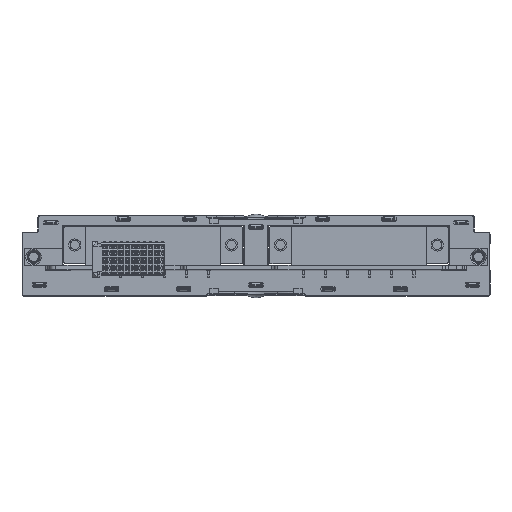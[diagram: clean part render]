
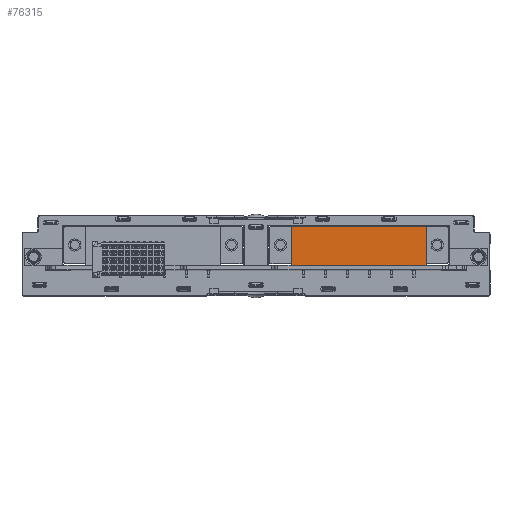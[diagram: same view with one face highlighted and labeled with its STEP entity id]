
A CAD part, top view. The second image highlights one B-rep face of the part: STEP entity #76315.
In plain terms, the highlighted planar face has unit normal (0, 0, 1).
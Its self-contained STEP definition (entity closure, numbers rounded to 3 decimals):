
#4297=FACE_OUTER_BOUND('',#8546,.T.);
#8546=EDGE_LOOP('',(#55027,#55028,#55029,#55030));
#13930=LINE('',#121234,#21775);
#14058=LINE('',#121539,#21903);
#14059=LINE('',#121541,#21904);
#14060=LINE('',#121542,#21905);
#21775=VECTOR('',#94083,1.);
#21903=VECTOR('',#94375,1.);
#21904=VECTOR('',#94376,1.);
#21905=VECTOR('',#94377,10.);
#31660=VERTEX_POINT('',#121222);
#31665=VERTEX_POINT('',#121232);
#31760=VERTEX_POINT('',#121538);
#31761=VERTEX_POINT('',#121540);
#40055=EDGE_CURVE('',#31660,#31665,#13930,.T.);
#40203=EDGE_CURVE('',#31665,#31760,#14058,.T.);
#40204=EDGE_CURVE('',#31760,#31761,#14059,.T.);
#40205=EDGE_CURVE('',#31660,#31761,#14060,.T.);
#55027=ORIENTED_EDGE('',*,*,#40203,.T.);
#55028=ORIENTED_EDGE('',*,*,#40204,.T.);
#55029=ORIENTED_EDGE('',*,*,#40205,.F.);
#55030=ORIENTED_EDGE('',*,*,#40055,.T.);
#68362=PLANE('',#81910);
#76315=ADVANCED_FACE('',(#4297),#68362,.T.);
#81910=AXIS2_PLACEMENT_3D('',#121537,#94373,#94374);
#94083=DIRECTION('',(0.,1.,0.));
#94373=DIRECTION('center_axis',(0.,0.,
1.));
#94374=DIRECTION('ref_axis',(0.,-1.,0.));
#94375=DIRECTION('',(-1.,0.,0.));
#94376=DIRECTION('',(0.,-1.,0.));
#94377=DIRECTION('',(-1.,0.,0.));
#121222=CARTESIAN_POINT('',(58.9,0.,24.75));
#121232=CARTESIAN_POINT('',(58.9,13.54,24.75));
#121234=CARTESIAN_POINT('',(58.9,5.001,24.75));
#121537=CARTESIAN_POINT('Origin',(43.66,12.54,24.75));
#121538=CARTESIAN_POINT('',(12.28,13.54,24.75));
#121539=CARTESIAN_POINT('',(16.54,13.54,24.75));
#121540=CARTESIAN_POINT('',(12.28,0.,24.75));
#121541=CARTESIAN_POINT('',(12.28,5.001,24.75));
#121542=CARTESIAN_POINT('',(58.33,0.,24.75));
